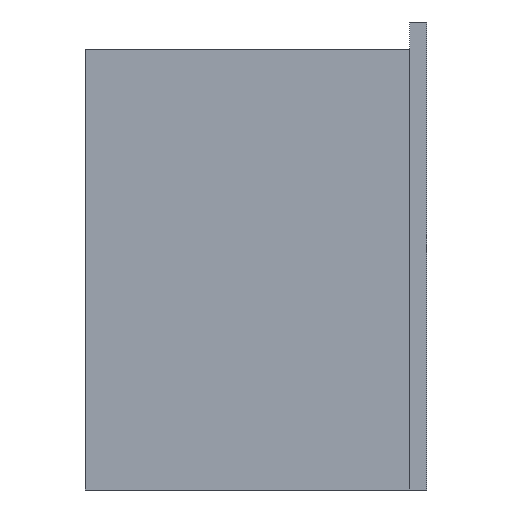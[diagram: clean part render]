
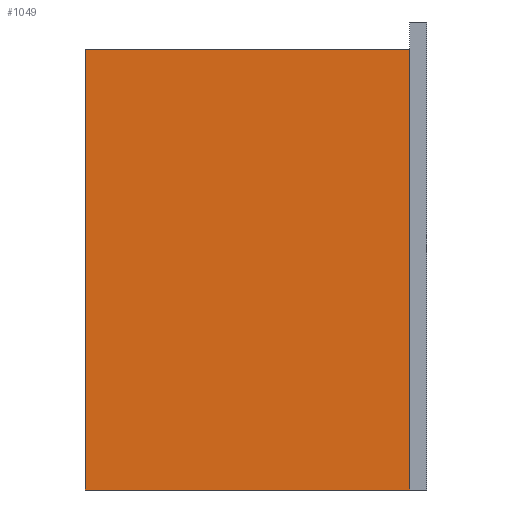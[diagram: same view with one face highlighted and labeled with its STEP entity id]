
A CAD part, left-side view. The second image highlights one B-rep face of the part: STEP entity #1049.
In plain terms, the highlighted planar face has unit normal (-1, 0, 0).
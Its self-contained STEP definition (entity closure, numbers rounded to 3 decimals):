
#32 = PLANE('',#33);
#33 = AXIS2_PLACEMENT_3D('',#34,#35,#36);
#34 = CARTESIAN_POINT('',(-39.5,0.,-4.));
#35 = DIRECTION('',(0.,0.,1.));
#36 = DIRECTION('',(1.,0.,-0.));
#100 = PLANE('',#101);
#101 = AXIS2_PLACEMENT_3D('',#102,#103,#104);
#102 = CARTESIAN_POINT('',(-43.5,2.5,-4.));
#103 = DIRECTION('',(-0.,1.,0.));
#104 = DIRECTION('',(0.,0.,1.));
#141 = VERTEX_POINT('',#142);
#142 = CARTESIAN_POINT('',(-39.5,50.,-4.));
#156 = PLANE('',#157);
#157 = AXIS2_PLACEMENT_3D('',#158,#159,#160);
#158 = CARTESIAN_POINT('',(-39.5,50.,-4.));
#159 = DIRECTION('',(-0.,1.,0.));
#160 = DIRECTION('',(0.,0.,1.));
#168 = EDGE_CURVE('',#169,#141,#171,.T.);
#169 = VERTEX_POINT('',#170);
#170 = CARTESIAN_POINT('',(-39.5,2.5,-4.));
#171 = SURFACE_CURVE('',#172,(#176,#183),.PCURVE_S1.);
#172 = LINE('',#173,#174);
#173 = CARTESIAN_POINT('',(-39.5,0.,-4.));
#174 = VECTOR('',#175,1.);
#175 = DIRECTION('',(-0.,1.,0.));
#176 = PCURVE('',#32,#177);
#177 = DEFINITIONAL_REPRESENTATION('',(#178),#182);
#178 = LINE('',#179,#180);
#179 = CARTESIAN_POINT('',(0.,0.));
#180 = VECTOR('',#181,1.);
#181 = DIRECTION('',(0.,1.));
#182 = ( GEOMETRIC_REPRESENTATION_CONTEXT(2) 
PARAMETRIC_REPRESENTATION_CONTEXT() REPRESENTATION_CONTEXT('2D SPACE',''
  ) );
#183 = PCURVE('',#184,#189);
#184 = PLANE('',#185);
#185 = AXIS2_PLACEMENT_3D('',#186,#187,#188);
#186 = CARTESIAN_POINT('',(-39.5,0.,-4.));
#187 = DIRECTION('',(1.,0.,-0.));
#188 = DIRECTION('',(0.,0.,1.));
#189 = DEFINITIONAL_REPRESENTATION('',(#190),#194);
#190 = LINE('',#191,#192);
#191 = CARTESIAN_POINT('',(0.,0.));
#192 = VECTOR('',#193,1.);
#193 = DIRECTION('',(0.,-1.));
#194 = ( GEOMETRIC_REPRESENTATION_CONTEXT(2) 
PARAMETRIC_REPRESENTATION_CONTEXT() REPRESENTATION_CONTEXT('2D SPACE',''
  ) );
#957 = VERTEX_POINT('',#958);
#958 = CARTESIAN_POINT('',(-39.5,2.5,60.5));
#971 = PLANE('',#972);
#972 = AXIS2_PLACEMENT_3D('',#973,#974,#975);
#973 = CARTESIAN_POINT('',(-39.5,0.,60.5));
#974 = DIRECTION('',(0.,0.,1.));
#975 = DIRECTION('',(1.,0.,-0.));
#982 = EDGE_CURVE('',#169,#957,#983,.T.);
#983 = SURFACE_CURVE('',#984,(#988,#994),.PCURVE_S1.);
#984 = LINE('',#985,#986);
#985 = CARTESIAN_POINT('',(-39.5,2.5,-4.));
#986 = VECTOR('',#987,1.);
#987 = DIRECTION('',(0.,0.,1.));
#988 = PCURVE('',#100,#989);
#989 = DEFINITIONAL_REPRESENTATION('',(#990),#993);
#990 = B_SPLINE_CURVE_WITH_KNOTS('',1,(#991,#992),.UNSPECIFIED.,.F.,.F.,
  (2,2),(0.,64.5),.PIECEWISE_BEZIER_KNOTS.);
#991 = CARTESIAN_POINT('',(0.,4.));
#992 = CARTESIAN_POINT('',(64.5,4.));
#993 = ( GEOMETRIC_REPRESENTATION_CONTEXT(2) 
PARAMETRIC_REPRESENTATION_CONTEXT() REPRESENTATION_CONTEXT('2D SPACE',''
  ) );
#994 = PCURVE('',#184,#995);
#995 = DEFINITIONAL_REPRESENTATION('',(#996),#999);
#996 = B_SPLINE_CURVE_WITH_KNOTS('',1,(#997,#998),.UNSPECIFIED.,.F.,.F.,
  (2,2),(0.,64.5),.PIECEWISE_BEZIER_KNOTS.);
#997 = CARTESIAN_POINT('',(0.,-2.5));
#998 = CARTESIAN_POINT('',(64.5,-2.5));
#999 = ( GEOMETRIC_REPRESENTATION_CONTEXT(2) 
PARAMETRIC_REPRESENTATION_CONTEXT() REPRESENTATION_CONTEXT('2D SPACE',''
  ) );
#1049 = ADVANCED_FACE('',(#1050),#184,.F.);
#1050 = FACE_BOUND('',#1051,.F.);
#1051 = EDGE_LOOP('',(#1052,#1075,#1076,#1077));
#1052 = ORIENTED_EDGE('',*,*,#1053,.F.);
#1053 = EDGE_CURVE('',#957,#1054,#1056,.T.);
#1054 = VERTEX_POINT('',#1055);
#1055 = CARTESIAN_POINT('',(-39.5,50.,60.5));
#1056 = SURFACE_CURVE('',#1057,(#1061,#1068),.PCURVE_S1.);
#1057 = LINE('',#1058,#1059);
#1058 = CARTESIAN_POINT('',(-39.5,0.,60.5));
#1059 = VECTOR('',#1060,1.);
#1060 = DIRECTION('',(-0.,1.,0.));
#1061 = PCURVE('',#184,#1062);
#1062 = DEFINITIONAL_REPRESENTATION('',(#1063),#1067);
#1063 = LINE('',#1064,#1065);
#1064 = CARTESIAN_POINT('',(64.5,0.));
#1065 = VECTOR('',#1066,1.);
#1066 = DIRECTION('',(0.,-1.));
#1067 = ( GEOMETRIC_REPRESENTATION_CONTEXT(2) 
PARAMETRIC_REPRESENTATION_CONTEXT() REPRESENTATION_CONTEXT('2D SPACE',''
  ) );
#1068 = PCURVE('',#971,#1069);
#1069 = DEFINITIONAL_REPRESENTATION('',(#1070),#1074);
#1070 = LINE('',#1071,#1072);
#1071 = CARTESIAN_POINT('',(0.,0.));
#1072 = VECTOR('',#1073,1.);
#1073 = DIRECTION('',(0.,1.));
#1074 = ( GEOMETRIC_REPRESENTATION_CONTEXT(2) 
PARAMETRIC_REPRESENTATION_CONTEXT() REPRESENTATION_CONTEXT('2D SPACE',''
  ) );
#1075 = ORIENTED_EDGE('',*,*,#982,.F.);
#1076 = ORIENTED_EDGE('',*,*,#168,.T.);
#1077 = ORIENTED_EDGE('',*,*,#1078,.T.);
#1078 = EDGE_CURVE('',#141,#1054,#1079,.T.);
#1079 = SURFACE_CURVE('',#1080,(#1084,#1091),.PCURVE_S1.);
#1080 = LINE('',#1081,#1082);
#1081 = CARTESIAN_POINT('',(-39.5,50.,-4.));
#1082 = VECTOR('',#1083,1.);
#1083 = DIRECTION('',(0.,0.,1.));
#1084 = PCURVE('',#184,#1085);
#1085 = DEFINITIONAL_REPRESENTATION('',(#1086),#1090);
#1086 = LINE('',#1087,#1088);
#1087 = CARTESIAN_POINT('',(0.,-50.));
#1088 = VECTOR('',#1089,1.);
#1089 = DIRECTION('',(1.,0.));
#1090 = ( GEOMETRIC_REPRESENTATION_CONTEXT(2) 
PARAMETRIC_REPRESENTATION_CONTEXT() REPRESENTATION_CONTEXT('2D SPACE',''
  ) );
#1091 = PCURVE('',#156,#1092);
#1092 = DEFINITIONAL_REPRESENTATION('',(#1093),#1097);
#1093 = LINE('',#1094,#1095);
#1094 = CARTESIAN_POINT('',(0.,0.));
#1095 = VECTOR('',#1096,1.);
#1096 = DIRECTION('',(1.,0.));
#1097 = ( GEOMETRIC_REPRESENTATION_CONTEXT(2) 
PARAMETRIC_REPRESENTATION_CONTEXT() REPRESENTATION_CONTEXT('2D SPACE',''
  ) );
